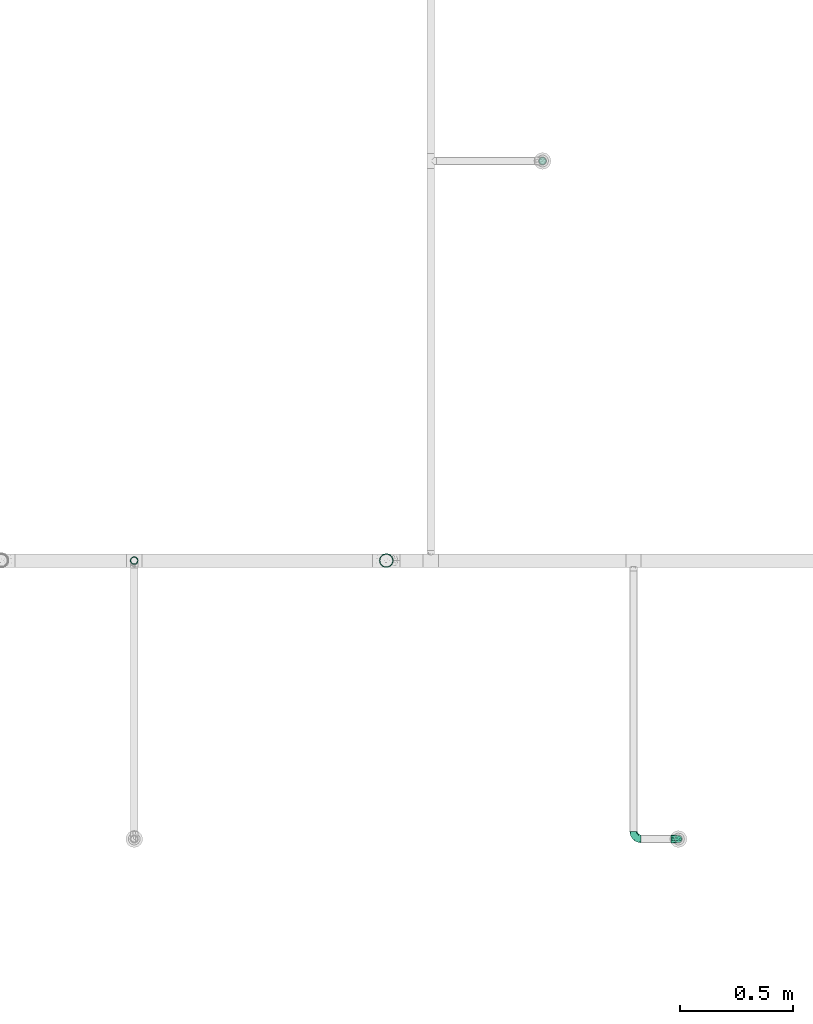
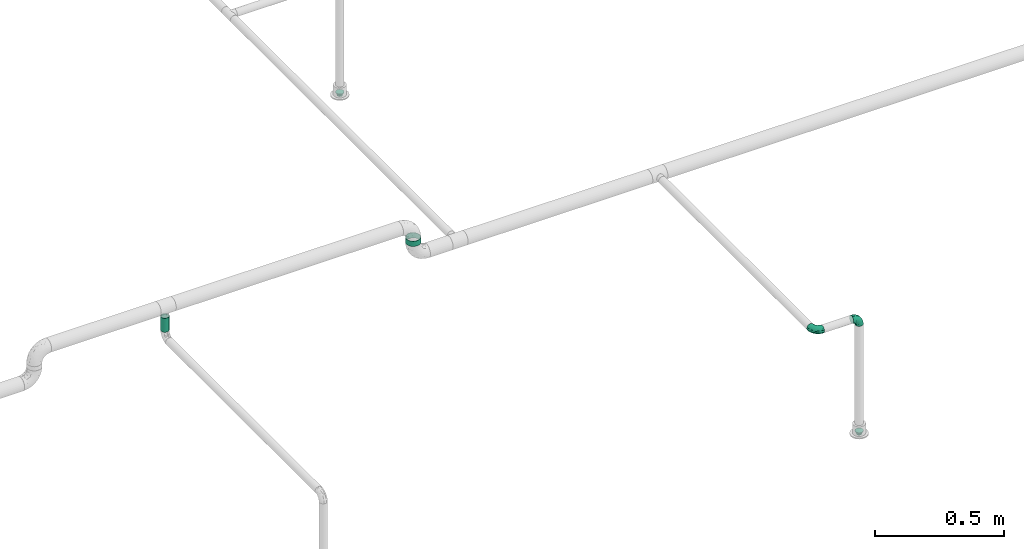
# One storey, part 71 of 95: 4 flow fittings, 2 flow segments.
"""IFC2X3 building model written with IfcOpenShell, lengths in millimetres."""

from ifc_helpers import new_model, entity, si_unit, converted_unit, derived_unit, direction, frame, origin_with_axes, origin_2d_with_axis, place, context, subcontext, project, spatial, hollow_circle, extrude, open_shell, surface_model, source, transform, mapped, type_object, element, save


model = new_model("IFC2X3")

# Units and contexts
model_context = context("Model", 3, precision=0.01, world=frame((0.0, 4.29681676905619e-09, 0.0)), true_north=direction((4.01073788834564e-13, 1.0)))
plan_context = context("Plan", 3, precision=0.01, world=frame((0.0, 4.29681676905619e-09, 0.0)), true_north=direction((4.01073788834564e-13, 1.0)))
body_context = subcontext(model_context, "Body", "Model", "MODEL_VIEW")
ifc_project = project(units=[converted_unit("PLANEANGLEUNIT", "DEGREE", entity("IfcPositiveLengthMeasure", 0.0174532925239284), si_unit("PLANEANGLEUNIT", "RADIAN"), dimensions=[0, 0, 0, 0, 0, 0, 0]), si_unit("AREAUNIT", "SQUARE_METRE"), si_unit("LENGTHUNIT", "METRE", prefix="MILLI"), si_unit("MASSUNIT", "GRAM", prefix="KILO"), si_unit("POWERUNIT", "WATT"), si_unit("PRESSUREUNIT", "PASCAL"), si_unit("FORCEUNIT", "NEWTON", prefix="KILO"), si_unit("ELECTRICVOLTAGEUNIT", "VOLT"), si_unit("ELECTRICCURRENTUNIT", "AMPERE"), si_unit("THERMODYNAMICTEMPERATUREUNIT", "DEGREE_CELSIUS"), si_unit("TIMEUNIT", "SECOND"), si_unit("VOLUMEUNIT", "CUBIC_METRE"), derived_unit("LINEARVELOCITYUNIT", [(si_unit("LENGTHUNIT", "METRE"), 1), (si_unit("TIMEUNIT", "SECOND"), -1)]), derived_unit("VOLUMETRICFLOWRATEUNIT", [(si_unit("VOLUMEUNIT", "CUBIC_METRE"), 1), (si_unit("TIMEUNIT", "SECOND"), -1)]), derived_unit("THERMALTRANSMITTANCEUNIT", [(si_unit("POWERUNIT", "WATT"), 1), (si_unit("THERMODYNAMICTEMPERATUREUNIT", "KELVIN"), -1), (si_unit("AREAUNIT", "SQUARE_METRE"), -1)]), derived_unit("SOUNDPRESSUREUNIT", [(si_unit("PRESSUREUNIT", "PASCAL"), 1)])], contexts=[model_context, plan_context])

# Site, building, storey
site_placement = place(None, frame((0.0, -4.29681676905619e-09, 0.0), z_axis=(0.0, 0.0, 1.0), x_axis=(1.0, 0.0, 0.0)))
site = spatial("IfcSite", under=ifc_project, at=site_placement, CompositionType="ELEMENT")
building_placement = place(site_placement, frame((0.0, 4.29681676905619e-09, 0.0), z_axis=(0.0, 0.0, 1.0), x_axis=(1.0, 0.0, 0.0)))
building = spatial("IfcBuilding", under=site, at=building_placement, Name="mc-building", CompositionType="ELEMENT")
storey_placement = place(building_placement, frame((0.0, 0.0, 210900.0), z_axis=(0.0, 0.0, 1.0), x_axis=(1.0, 0.0, 0.0)))
storey = spatial("IfcBuildingStorey", under=building, at=storey_placement, Name="Nivå F", CompositionType="ELEMENT", Elevation=210900.0)

# Flow fittings
pipe_fitting_type_1 = type_object("IfcPipeFittingType", Name="magi_pipe_fe_reducer_centric_short_NOR", PredefinedType="TRANSITION")
shared_shape_1 = source(origin_with_axes(), body_context, "Body", "SurfaceModel", [
    surface_model("IfcShellBasedSurfaceModel", [(14.4, 5.35, -9.26647), (14.4, 0.0, -10.7), (14.4, 2.76936, -10.33541), (14.4, 10.33541, -2.76936), (14.4, 7.56604, -7.56604), (14.4, -10.33541, -2.76936), (14.4, 9.26647, -5.35), (14.4, 0.0, 10.7), (14.4, -5.35, -9.26647), (14.4, -2.76936, -10.33541), (14.4, -7.56604, -7.56604), (14.4, -9.26647, -5.35), (14.4, 10.7, 0.0), (14.4, 10.33541, 2.76936), (14.4, 9.26647, 5.35), (14.4, 7.56604, 7.56604), (14.4, 2.76936, 10.33541), (14.4, 5.35, 9.26647), (14.4, -10.33541, 2.76936), (14.4, -7.56604, 7.56604), (14.4, -9.26647, 5.35), (14.4, -10.7, 0.0), (14.4, -2.76936, 10.33541), (14.4, -5.35, 9.26647), (12.4, 2.76936, 10.33541), (12.4, -10.33541, -2.76936), (12.4, 0.0, 10.7), (12.4, 5.35, 9.26647), (12.4, 7.56604, 7.56604), (12.4, 9.26647, 5.35), (12.4, 10.33541, 2.76936), (12.4, -10.33541, 2.76936), (12.4, -2.76936, 10.33541), (12.4, -7.56604, 7.56604), (12.4, -5.35, 9.26647), (12.4, -9.26647, 5.35), (12.4, -10.7, 0.0), (12.4, 10.33541, -2.76936), (12.4, 5.35, -9.26647), (12.4, 9.26647, -5.35), (12.4, 7.56604, -7.56604), (12.4, 2.76936, -10.33541), (12.4, -9.26647, -5.35), (12.4, -5.35, -9.26647), (12.4, -7.56604, -7.56604), (12.4, 0.0, -10.7), (12.4, -2.76936, -10.33541), (12.4, 10.7, 0.0), (-2.0, 11.9501, 11.9501), (-2.0, 0.0, 16.9), (-2.0, 4.37404, 16.32415), (-2.0, 8.45, 14.63583), (-2.0, 14.63583, 8.45), (-2.0, 16.32415, 4.37404), (-2.0, -16.32415, 4.37404), (-2.0, -8.45, 14.63583), (-2.0, -14.63583, 8.45), (-2.0, -11.9501, 11.9501), (-2.0, -4.37404, 16.32415), (-2.0, -16.32415, -4.37404), (-2.0, -16.9, 0.0), (-2.0, -8.45, -14.63583), (-2.0, 16.32415, -4.37404), (-2.0, 11.9501, -11.9501), (-2.0, 14.63583, -8.45), (-2.0, 8.45, -14.63583), (-2.0, 4.37404, -16.32415), (-2.0, 0.0, -16.9), (-2.0, -11.9501, -11.9501), (-2.0, -14.63583, -8.45), (-2.0, -4.37404, -16.32415), (-2.0, 16.9, 0.0), (0.0, 4.37404, -16.32415), (0.0, 8.45, -14.63583), (0.0, 11.9501, -11.9501), (0.0, 0.0, -16.9), (0.0, 16.32415, -4.37404), (0.0, 16.32415, 4.37404), (0.0, 14.63583, -8.45), (0.0, -8.45, -14.63583), (0.0, -4.37404, -16.32415), (0.0, -11.9501, -11.9501), (0.0, -16.32415, -4.37404), (0.0, -14.63583, -8.45), (0.0, -16.32415, 4.37404), (0.0, 16.9, 0.0), (0.0, 14.63583, 8.45), (0.0, 11.9501, 11.9501), (0.0, 4.37404, 16.32415), (0.0, 8.45, 14.63583), (0.0, 0.0, 16.9), (0.0, -14.63583, 8.45), (0.0, -16.9, 0.0), (0.0, -8.45, 14.63583), (0.0, -11.9501, 11.9501), (0.0, -4.37404, 16.32415), (12.4, 9.3625, -2.31662), (0.0, 14.42505, -5.97505), (0.0, 15.66253, -2.98753), (12.4, -6.6875, -6.94985), (0.0, -13.18758, -8.96258), (0.0, 2.98753, -15.66253), (12.4, 0.0, -9.26647), (12.4, 6.6875, -6.94985), (0.0, 8.96258, -13.18758), (12.4, -9.3625, -2.31662), (0.0, -15.66253, -2.98753), (0.0, -14.42505, -5.97505), (0.0, 5.97505, -14.42505), (0.0, -2.98753, -15.66253), (0.0, -8.96258, -13.18758), (0.0, 13.18758, -8.96258), (12.4, 8.025, -4.63324), (12.4, -2.675, -9.26647), (12.4, 2.675, -9.26647), (0.0, -5.97505, -14.42505), (12.4, -8.025, -4.63324), (12.4, -9.3625, 2.31662), (0.0, -14.42505, 5.97505), (0.0, -15.66253, 2.98753), (12.4, 6.6875, 6.94985), (0.0, 13.18758, 8.96258), (0.0, -2.98753, 15.66253), (12.4, 0.0, 9.26647), (12.4, -6.6875, 6.94985), (0.0, -8.96258, 13.18758), (12.4, 9.3625, 2.31662), (0.0, 15.66253, 2.98753), (0.0, 14.42505, 5.97505), (0.0, -5.97505, 14.42505), (0.0, 2.98753, 15.66253), (0.0, 8.96258, 13.18758), (0.0, -13.18758, 8.96258), (12.4, -8.025, 4.63324), (12.4, 2.675, 9.26647), (12.4, -2.675, 9.26647), (0.0, 5.97505, 14.42505), (12.4, 8.025, 4.63324)], [open_shell([[[0, 1, 2]], [[3, 0, 4]], [[5, 0, 3]], [[3, 4, 6]], [[7, 5, 3]], [[1, 8, 9]], [[1, 0, 8]], [[10, 5, 11]], [[5, 10, 8]], [[0, 5, 8]], [[3, 12, 13]], [[13, 14, 15]], [[13, 15, 16]], [[7, 3, 16]], [[16, 15, 17]], [[7, 18, 5]], [[18, 19, 20]], [[21, 5, 18]], [[19, 22, 23]], [[22, 19, 18]], [[7, 22, 18]], [[13, 16, 3]], [[24, 25, 26]], [[27, 25, 24]], [[28, 29, 30]], [[28, 25, 27]], [[31, 26, 25]], [[32, 33, 34]], [[33, 32, 31]], [[33, 31, 35]], [[32, 26, 31]], [[31, 25, 36]], [[30, 37, 28]], [[25, 28, 37]], [[38, 37, 39]], [[37, 38, 25]], [[38, 39, 40]], [[41, 25, 38]], [[42, 43, 44]], [[43, 42, 25]], [[43, 45, 46]], [[43, 25, 41]], [[41, 45, 43]], [[37, 30, 47]], [[25, 5, 36]], [[42, 11, 25]], [[8, 44, 43]], [[42, 44, 10]], [[9, 43, 46]], [[25, 11, 5]], [[5, 21, 36]], [[9, 8, 43]], [[10, 44, 8]], [[10, 11, 42]], [[1, 9, 46]], [[46, 45, 1]], [[41, 2, 45]], [[38, 0, 41]], [[6, 40, 39]], [[38, 40, 4]], [[3, 39, 37]], [[38, 4, 0]], [[0, 2, 41]], [[12, 3, 37]], [[6, 39, 3]], [[6, 4, 40]], [[47, 12, 37]], [[45, 2, 1]], [[30, 13, 47]], [[29, 14, 30]], [[17, 28, 27]], [[29, 28, 15]], [[16, 27, 24]], [[30, 14, 13]], [[13, 12, 47]], [[16, 17, 27]], [[15, 28, 17]], [[15, 14, 29]], [[7, 16, 24]], [[24, 26, 7]], [[32, 22, 26]], [[34, 23, 32]], [[20, 33, 35]], [[34, 33, 19]], [[18, 35, 31]], [[34, 19, 23]], [[23, 22, 32]], [[21, 18, 31]], [[20, 35, 18]], [[20, 19, 33]], [[36, 21, 31]], [[26, 22, 7]], [[48, 49, 50]], [[48, 50, 51]], [[48, 52, 53]], [[48, 53, 49]], [[49, 53, 54]], [[55, 56, 57]], [[55, 58, 49]], [[56, 55, 49]], [[49, 54, 56]], [[54, 59, 60]], [[54, 53, 61]], [[53, 62, 63]], [[63, 62, 64]], [[63, 65, 66]], [[61, 53, 63]], [[67, 63, 66]], [[59, 68, 69]], [[68, 59, 61]], [[61, 67, 70]], [[59, 54, 61]], [[63, 67, 61]], [[53, 71, 62]], [[72, 73, 74]], [[75, 72, 74]], [[74, 76, 77]], [[76, 74, 78]], [[74, 77, 79]], [[75, 79, 80]], [[75, 74, 79]], [[81, 82, 83]], [[82, 81, 79]], [[79, 84, 82]], [[77, 76, 85]], [[77, 86, 87]], [[77, 87, 88]], [[88, 84, 79]], [[88, 87, 89]], [[84, 88, 90]], [[90, 91, 84]], [[92, 82, 84]], [[91, 93, 94]], [[91, 90, 93]], [[93, 90, 95]], [[79, 77, 88]], [[59, 82, 60]], [[69, 83, 59]], [[79, 68, 61]], [[69, 68, 81]], [[80, 61, 70]], [[59, 83, 82]], [[82, 92, 60]], [[80, 79, 61]], [[81, 68, 79]], [[81, 83, 69]], [[75, 80, 70]], [[70, 67, 75]], [[66, 72, 67]], [[65, 73, 66]], [[78, 63, 64]], [[65, 63, 74]], [[76, 64, 62]], [[65, 74, 73]], [[73, 72, 66]], [[85, 76, 62]], [[78, 64, 76]], [[78, 74, 63]], [[71, 85, 62]], [[67, 72, 75]], [[53, 77, 71]], [[52, 86, 53]], [[89, 48, 51]], [[52, 48, 87]], [[88, 51, 50]], [[53, 86, 77]], [[77, 85, 71]], [[88, 89, 51]], [[87, 48, 89]], [[87, 86, 52]], [[90, 88, 50]], [[50, 49, 90]], [[58, 95, 49]], [[55, 93, 58]], [[91, 57, 56]], [[55, 57, 94]], [[84, 56, 54]], [[55, 94, 93]], [[93, 95, 58]], [[92, 84, 54]], [[91, 56, 84]], [[91, 94, 57]], [[60, 92, 54]], [[49, 95, 90]], [[27, 34, 47]], [[47, 34, 43]], [[43, 38, 47]], [[43, 34, 36]], [[90, 87, 94]], [[92, 94, 87]], [[87, 74, 92]], [[75, 92, 74]], [[81, 92, 75]], [[74, 87, 85]], [[96, 97, 98]], [[81, 99, 100]], [[101, 102, 75]], [[98, 85, 47]], [[74, 103, 104]], [[104, 103, 38]], [[105, 106, 107]], [[38, 108, 104]], [[102, 109, 75]], [[110, 99, 81]], [[47, 96, 98]], [[103, 111, 112]], [[109, 102, 113]], [[36, 92, 106]], [[102, 101, 114]], [[110, 115, 43]], [[96, 112, 97]], [[107, 116, 105]], [[36, 106, 105]], [[113, 115, 109]], [[43, 115, 113]], [[116, 107, 100]], [[108, 38, 114]], [[111, 103, 74]], [[111, 97, 112]], [[99, 110, 43]], [[116, 100, 99]], [[101, 108, 114]], [[117, 118, 119]], [[87, 120, 121]], [[122, 123, 90]], [[119, 92, 36]], [[94, 124, 125]], [[125, 124, 34]], [[126, 127, 128]], [[34, 129, 125]], [[123, 130, 90]], [[131, 120, 87]], [[36, 117, 119]], [[124, 132, 133]], [[130, 123, 134]], [[47, 85, 127]], [[123, 122, 135]], [[131, 136, 27]], [[117, 133, 118]], [[128, 137, 126]], [[47, 127, 126]], [[134, 136, 130]], [[27, 136, 134]], [[137, 128, 121]], [[129, 34, 135]], [[132, 124, 94]], [[132, 118, 133]], [[120, 131, 27]], [[137, 121, 120]], [[122, 129, 135]]])]),
])
for number, where, z_axis, x_axis, name in (
    (1, (531098.68266, 449607.85, 3769.25200000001), (-0.000893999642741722, -0.99999960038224, 0.0), (0.0, 0.0, -1.0), "magi_pipe_fe_reducer_centric_short_NOR"),
    (2, (530498.24193, 452603.51992, 3769.25200000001), (-0.000893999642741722, -0.99999960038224, 0.0), (0.0, 0.0, -1.0), "magi_pipe_fe_reducer_centric_short_NOR"),
):
    element("IfcFlowFitting", number, at=place(storey_placement, frame(where, z_axis=z_axis, x_axis=x_axis)), inside=storey, type_object=pipe_fitting_type_1, Name=name, context=body_context, shape_type="MappedRepresentation", body=[
        mapped(shared_shape_1, transform((0.0, 0.0, 0.0), scale=1.0)),
    ])
pipe_fitting_type_2 = type_object("IfcPipeFittingType", Name="magi_pipe_fe_elbow_short_001", PredefinedType="BEND")
shared_shape_2 = source(origin_with_axes(), body_context, "Body", "SurfaceModel", [
    surface_model("IfcShellBasedSurfaceModel", [(-33.8, 8.45, -14.63583), (-33.8, 4.37404, -16.32415), (-33.8, 11.9501, -11.9501), (-33.8, -11.9501, -11.9501), (-33.8, -14.63583, -8.45), (-33.8, -8.45, -14.63583), (-33.8, 0.0, -16.9), (-33.8, -4.37404, -16.32415), (-33.8, -4.37404, 16.32415), (-33.8, 0.0, 16.9), (-33.8, -8.45, 14.63583), (-33.8, 16.32415, -4.37404), (-33.8, 14.63583, -8.45), (-33.8, -16.32415, -4.37404), (-33.8, -16.9, 0.0), (-33.8, -16.32415, 4.37404), (-33.8, 11.9501, 11.9501), (-33.8, 14.63583, 8.45), (-33.8, 16.32415, 4.37404), (-33.8, 4.37404, 16.32415), (-33.8, 8.45, 14.63583), (-33.8, -14.63583, 8.45), (-33.8, -11.9501, 11.9501), (-33.8, 16.9, 0.0), (-11.9501, 33.8, -11.9501), (0.0, 33.8, -16.9), (-4.37404, 33.8, -16.32415), (-8.45, 33.8, -14.63583), (-14.63583, 33.8, -8.45), (-16.32415, 33.8, -4.37404), (14.63583, 33.8, -8.45), (8.45, 33.8, 14.63583), (16.32415, 33.8, -4.37404), (8.45, 33.8, -14.63583), (11.9501, 33.8, -11.9501), (4.37404, 33.8, -16.32415), (16.32415, 33.8, 4.37404), (16.9, 33.8, 0.0), (-11.9501, 33.8, 11.9501), (-16.32415, 33.8, 4.37404), (-14.63583, 33.8, 8.45), (-8.45, 33.8, 14.63583), (-4.37404, 33.8, 16.32415), (11.9501, 33.8, 11.9501), (14.63583, 33.8, 8.45), (0.0, 33.8, 16.9), (4.37404, 33.8, 16.32415), (-16.9, 33.8, 0.0), (-24.79389, -13.12945, 9.48721), (-22.19287, -9.75018, 12.59315), (-24.09897, -14.97035, 0.0), (-14.93934, -10.76256, 8.5297), (-22.46095, -14.75051, 5.27077), (14.75051, 22.46094, 5.27077), (11.9251, 13.23888, 4.33236), (13.04069, 14.39795, 0.0), (7.71387, 13.68847, 11.55891), (9.75018, 22.19287, 12.59315), (4.10169, 13.0571, 14.04018), (-24.84007, -6.39063, 15.2048), (-25.81779, -2.23879, 16.61097), (-23.66549, 2.59054, 16.87119), (-26.50418, 14.06512, 11.08152), (-24.21253, 17.66365, 7.72657), (-29.58514, 15.86957, 7.00283), (-6.17382, -7.5455, 0.0), (-13.23888, -11.9251, 4.33236), (-14.39795, -13.04069, 0.0), (-17.81434, 18.87373, 11.97104), (-6.30846, 29.15138, 15.82987), (-2.31622, 25.28002, 16.85849), (-29.23923, 10.23435, 13.77053), (-1.45439, -2.85688, 7.61475), (-0.28326, 0.34872, 10.09509), (-5.74484, -4.04709, 10.4122), (-4.41137, 11.31918, 16.59407), (-8.39727, 3.10034, 15.7812), (-1.72649, 9.1306, 15.53089), (-17.39909, 24.75344, 7.64977), (-26.19233, 20.0512, 0.0), (-28.14518, 17.29657, 4.25857), (-26.05147, 6.6281, 15.96447), (-5.87354, 16.61944, 16.86968), (-12.51807, 12.51807, 16.48937), (-10.06312, 7.38516, 16.81295), (-3.01882, 3.01882, 13.81718), (-13.0571, -4.10169, 14.04018), (-16.82553, -0.15166, 16.38038), (10.76256, 14.93934, 8.5297), (13.12945, 24.79389, 9.48721), (6.39063, 24.84007, 15.2048), (2.23879, 25.81779, 16.61097), (-13.68847, -7.71387, 11.55891), (14.97035, 24.09897, 0.0), (-7.30894, 22.89991, 16.09489), (-10.67958, 26.17414, 14.008), (-12.78295, 18.26924, 15.06066), (-13.88562, 22.45231, 12.93244), (-18.04944, 15.16501, 14.04434), (-23.11658, 20.08178, 4.02986), (-21.84989, 21.84989, 0.0), (-18.55817, 25.48277, 3.93065), (-13.95142, 26.94732, 11.03289), (-18.57098, 7.23906, 16.59756), (-16.58335, 4.14122, 16.89279), (-17.96666, 11.46709, 15.63151), (-9.84453, 17.54304, 16.18938), (0.15166, 16.82553, 16.38038), (-23.27207, 11.47201, 14.23154), (3.84842, 5.86994, 10.70473), (-8.0212, -7.54413, 7.93275), (1.00345, -2.19508, 4.57414), (5.13203, 3.01004, 5.90201), (5.24161, 1.7543, 2.53265), (8.70457, 7.04947, 3.99182), (-20.0512, 26.19233, 0.0), (8.4852, 8.76699, 7.09296), (-4.55488, -6.72064, 4.90681), (2.05031, -2.05031, 0.0), (7.5455, 6.17382, 0.0), (-26.75399, 2.1369, -16.845), (-14.61995, 24.73803, -11.27736), (-28.45274, -13.45335, -9.81895), (-26.00469, 6.63555, -15.96645), (-23.06726, 20.04573, -4.26202), (-13.80647, -4.26506, -14.17873), (-14.67501, -0.21081, -16.07388), (-6.7902, -0.2828, -13.8478), (-24.53586, 11.08096, -14.13417), (-26.72048, 14.00837, -11.05776), (10.0967, 24.44989, -12.75976), (5.83237, 21.40218, -15.03047), (6.66249, 28.54238, -15.38093), (-20.38182, 15.48705, -12.74596), (12.53268, 21.23441, -9.15363), (12.54494, 15.67504, -5.54878), (9.7522, 12.89279, -8.66343), (-15.65186, 19.64213, -13.01327), (-12.03528, 20.66498, -14.67665), (-15.61907, 15.61906, -14.83879), (-25.56551, -15.26206, 0.0), (-24.65452, -15.12934, -5.50955), (13.45335, 28.45274, -9.81895), (15.12934, 24.65452, -5.50955), (-7.35442, -8.31014, -5.65563), (-15.67504, -12.54494, -5.54878), (-24.44989, -10.0967, -12.75976), (0.16522, 0.41303, -9.71728), (-5.70658, -5.33066, -8.89288), (-5.13869, -2.37198, -11.53565), (-21.23441, -12.53268, -9.15363), (0.71146, 7.93863, -14.09382), (0.21081, 14.67501, -16.07388), (3.49291, 14.42772, -14.76381), (-24.89911, -2.13088, -16.591), (-28.54238, -6.66249, -15.38093), (-18.44386, -7.71663, -13.26957), (2.13088, 24.89911, -16.591), (-28.64342, 17.44413, -2.89318), (1.70017, -1.28722, -5.09504), (-16.57067, 26.81947, -7.36596), (-17.69055, 27.4263, -3.76405), (-12.89279, -9.7522, -8.66343), (-5.96611, 5.96611, -15.95814), (-20.53709, 20.09345, -8.28985), (-2.1369, 26.75399, -16.845), (-6.89872, 24.58781, -16.02578), (-10.60739, 26.53157, -13.98044), (-21.40218, -5.83237, -15.03047), (2.93192, 5.89627, -11.55917), (6.89393, 12.61842, -11.82233), (5.58056, 5.95325, -8.79455), (-3.99512, 18.61798, -16.89635), (8.31014, 7.35442, -5.65563), (-9.1383, 9.86148, -16.89041), (-9.99983, 16.02119, -16.39699), (-16.68576, 9.78031, -16.34199), (-27.01915, 16.61158, -7.12979), (15.26206, 25.56551, 0.0), (-18.61798, 3.99512, -16.89635), (-19.37495, 27.82495, 0.0), (-12.61842, -6.89393, -11.82233), (-18.84705, 19.14018, -10.96545)], [open_shell([[[0, 1, 2]], [[3, 4, 5]], [[6, 7, 5]], [[8, 9, 10]], [[1, 6, 2]], [[11, 12, 2]], [[4, 2, 6]], [[2, 13, 10]], [[5, 4, 6]], [[2, 4, 13]], [[14, 15, 13]], [[11, 2, 16]], [[11, 17, 18]], [[11, 16, 17]], [[19, 20, 16]], [[16, 2, 10]], [[19, 16, 10]], [[21, 22, 15]], [[22, 13, 15]], [[22, 10, 13]], [[10, 9, 19]], [[11, 18, 23]], [[24, 25, 26]], [[24, 26, 27]], [[24, 28, 29]], [[25, 24, 30]], [[31, 32, 24]], [[33, 30, 34]], [[33, 35, 25]], [[25, 30, 33]], [[32, 30, 24]], [[32, 36, 37]], [[38, 24, 29]], [[39, 40, 29]], [[40, 38, 29]], [[38, 41, 42]], [[38, 31, 24]], [[31, 38, 42]], [[36, 43, 44]], [[36, 32, 43]], [[31, 45, 46]], [[32, 31, 43]], [[42, 45, 31]], [[39, 29, 47]], [[22, 48, 49]], [[15, 14, 50]], [[51, 48, 52]], [[53, 54, 55]], [[48, 22, 21]], [[15, 52, 21]], [[56, 57, 58]], [[49, 10, 22]], [[49, 59, 10]], [[9, 60, 61]], [[62, 63, 64]], [[65, 66, 67]], [[57, 43, 31]], [[62, 68, 63]], [[42, 69, 70]], [[20, 71, 16]], [[8, 60, 9]], [[72, 73, 74]], [[75, 76, 77]], [[16, 62, 17]], [[40, 39, 78]], [[79, 23, 80]], [[64, 18, 17]], [[9, 61, 19]], [[19, 81, 20]], [[82, 83, 84]], [[74, 85, 86]], [[59, 86, 87]], [[88, 89, 57]], [[90, 31, 46]], [[44, 53, 36]], [[46, 45, 91]], [[54, 53, 88]], [[44, 89, 53]], [[92, 86, 49]], [[89, 44, 43]], [[10, 59, 8]], [[53, 55, 93]], [[93, 36, 53]], [[66, 52, 67]], [[94, 82, 70]], [[95, 96, 94]], [[97, 98, 96]], [[79, 99, 100]], [[41, 38, 95]], [[101, 100, 99]], [[68, 78, 63]], [[42, 41, 69]], [[23, 18, 80]], [[95, 94, 69]], [[78, 101, 99]], [[38, 102, 95]], [[70, 45, 42]], [[97, 95, 102]], [[15, 50, 52]], [[90, 57, 31]], [[57, 90, 58]], [[81, 19, 61]], [[103, 104, 84]], [[105, 81, 103]], [[38, 40, 102]], [[106, 96, 83]], [[94, 106, 82]], [[91, 70, 107]], [[71, 62, 16]], [[62, 108, 98]], [[86, 59, 49]], [[67, 52, 50]], [[60, 59, 87]], [[92, 49, 51]], [[86, 85, 76]], [[91, 90, 46]], [[37, 36, 93]], [[107, 77, 58]], [[107, 58, 90]], [[58, 85, 109]], [[110, 74, 92]], [[72, 74, 110]], [[66, 51, 52]], [[72, 111, 112]], [[113, 114, 112]], [[56, 88, 57]], [[52, 48, 21]], [[49, 48, 51]], [[57, 89, 43]], [[53, 89, 88]], [[103, 81, 61]], [[71, 81, 108]], [[18, 64, 80]], [[63, 78, 99]], [[47, 115, 101]], [[101, 115, 100]], [[40, 78, 102]], [[68, 102, 78]], [[97, 96, 95]], [[105, 98, 108]], [[103, 84, 83]], [[107, 70, 82]], [[76, 84, 87]], [[82, 84, 75]], [[70, 91, 45]], [[90, 91, 107]], [[59, 60, 8]], [[61, 60, 87]], [[73, 85, 74]], [[109, 112, 116]], [[103, 61, 104]], [[105, 103, 83]], [[96, 105, 83]], [[81, 105, 108]], [[96, 98, 105]], [[62, 98, 68]], [[61, 87, 104]], [[87, 84, 104]], [[86, 76, 87]], [[77, 76, 85]], [[58, 77, 85]], [[75, 77, 107]], [[82, 75, 107]], [[76, 75, 84]], [[81, 71, 20]], [[62, 71, 108]], [[95, 69, 41]], [[70, 69, 94]], [[62, 64, 17]], [[80, 63, 99]], [[63, 80, 64]], [[80, 99, 79]], [[66, 65, 117]], [[110, 66, 117]], [[112, 114, 116]], [[118, 117, 65]], [[110, 92, 51]], [[112, 111, 113]], [[119, 55, 54]], [[74, 86, 92]], [[58, 109, 56]], [[116, 56, 109]], [[66, 110, 51]], [[72, 110, 117]], [[111, 72, 117]], [[73, 112, 109]], [[117, 118, 111]], [[113, 111, 118]], [[118, 119, 113]], [[114, 119, 54]], [[119, 114, 113]], [[116, 54, 88]], [[54, 116, 114]], [[116, 88, 56]], [[112, 73, 72]], [[85, 73, 109]], [[78, 39, 101]], [[47, 101, 39]], [[102, 68, 97]], [[97, 68, 98]], [[82, 106, 83]], [[94, 96, 106]], [[1, 120, 6]], [[28, 24, 121]], [[3, 122, 4]], [[0, 123, 1]], [[100, 124, 79]], [[125, 126, 127]], [[128, 2, 129]], [[130, 131, 132]], [[128, 129, 133]], [[134, 135, 136]], [[137, 138, 139]], [[128, 0, 2]], [[67, 140, 141]], [[134, 142, 143]], [[141, 13, 4]], [[144, 65, 145]], [[146, 3, 5]], [[147, 148, 149]], [[145, 141, 150]], [[151, 152, 153]], [[154, 7, 6]], [[5, 155, 146]], [[150, 146, 156]], [[155, 5, 7]], [[143, 135, 134]], [[35, 157, 25]], [[23, 79, 158]], [[148, 159, 144]], [[160, 161, 29]], [[145, 162, 144]], [[163, 152, 151]], [[29, 28, 160]], [[121, 164, 160]], [[33, 34, 130]], [[25, 165, 26]], [[26, 165, 166]], [[142, 34, 30]], [[24, 27, 167]], [[124, 161, 164]], [[157, 35, 132]], [[155, 154, 168]], [[123, 0, 128]], [[169, 170, 171]], [[172, 157, 152]], [[26, 166, 27]], [[132, 35, 33]], [[142, 130, 34]], [[168, 154, 126]], [[136, 135, 173]], [[133, 137, 139]], [[2, 12, 129]], [[170, 131, 130]], [[30, 32, 143]], [[172, 174, 175]], [[176, 123, 128]], [[158, 177, 11]], [[135, 55, 119]], [[167, 27, 166]], [[175, 166, 172]], [[137, 167, 138]], [[122, 141, 4]], [[140, 14, 13]], [[32, 37, 178]], [[170, 130, 134]], [[152, 157, 131]], [[165, 157, 172]], [[153, 170, 151]], [[152, 163, 174]], [[168, 125, 156]], [[122, 146, 150]], [[120, 154, 6]], [[179, 174, 126]], [[179, 126, 154]], [[126, 163, 127]], [[162, 145, 150]], [[140, 13, 141]], [[32, 178, 143]], [[55, 143, 178]], [[177, 129, 12]], [[128, 133, 139]], [[176, 128, 139]], [[120, 123, 179]], [[121, 160, 28]], [[161, 100, 180]], [[166, 175, 138]], [[121, 24, 167]], [[161, 47, 29]], [[79, 124, 158]], [[124, 164, 177]], [[161, 124, 100]], [[136, 171, 170]], [[127, 163, 151]], [[147, 171, 159]], [[148, 144, 162]], [[127, 151, 169]], [[127, 181, 125]], [[129, 177, 164]], [[12, 11, 177]], [[159, 65, 144]], [[67, 141, 145]], [[143, 55, 135]], [[135, 119, 173]], [[123, 120, 1]], [[154, 120, 179]], [[157, 165, 25]], [[166, 165, 172]], [[172, 152, 174]], [[176, 139, 175]], [[126, 174, 163]], [[176, 174, 179]], [[174, 176, 175]], [[123, 176, 179]], [[150, 181, 162]], [[127, 149, 181]], [[181, 148, 162]], [[159, 148, 147]], [[171, 136, 173]], [[170, 134, 136]], [[159, 171, 173]], [[171, 147, 169]], [[169, 147, 149]], [[151, 170, 169]], [[164, 182, 129]], [[182, 121, 137]], [[181, 149, 148]], [[169, 149, 127]], [[182, 137, 133]], [[167, 137, 121]], [[166, 138, 167]], [[175, 139, 138]], [[129, 182, 133]], [[121, 182, 164]], [[161, 160, 164]], [[47, 161, 180]], [[177, 158, 124]], [[23, 158, 11]], [[130, 132, 33]], [[157, 132, 131]], [[143, 142, 30]], [[130, 142, 134]], [[154, 155, 7]], [[146, 155, 168]], [[146, 122, 3]], [[141, 122, 150]], [[152, 131, 153]], [[159, 119, 118]], [[67, 145, 65]], [[170, 153, 131]], [[119, 159, 173]], [[159, 118, 65]], [[156, 125, 181]], [[126, 125, 168]], [[150, 156, 181]], [[168, 156, 146]]])]),
])
for number, where, z_axis, x_axis, name in (
    (3, (530900.0, 449607.85, 4310.0), (0.0, 0.0, 1.0), (0.0, -1.0, 0.0), "magi_pipe_fe_elbow_short_001"),
    (4, (531098.68266, 449607.85, 4310.0), (0.0, 1.0, 0.0), (1.0, 0.0, 0.0), "magi_pipe_fe_elbow_short_001"),
):
    element("IfcFlowFitting", number, at=place(storey_placement, frame(where, z_axis=z_axis, x_axis=x_axis)), inside=storey, type_object=pipe_fitting_type_2, Name=name, context=body_context, shape_type="MappedRepresentation", body=[
        mapped(shared_shape_2, transform((0.0, 0.0, 0.0), scale=1.0)),
    ])

# Flow segments
pipe_segment_type = type_object("IfcPipeSegmentType", Name="Stålrør normaltykke", PredefinedType="RIGIDSEGMENT")
shared_shape_3 = source(origin_with_axes(), body_context, "Body", "SweptSolid", [
    extrude(hollow_circle(Radius=30.1, WallThickness=2.0, at=origin_2d_with_axis()), frame((0.0, 0.0, 0.0), z_axis=(1.0, 0.0, 0.0), x_axis=(0.0, 1.0, 0.0)), (0.0, 0.0, 1.0), 24.7),
])
flow_segment_1_placement = place(storey_placement, frame((529808.06458, 450838.0, 4395.07504), z_axis=(0.0, 1.0, 0.0), x_axis=(0.0, 0.0, -1.0)))
element("IfcFlowSegment", 5, at=flow_segment_1_placement, inside=storey, type_object=pipe_segment_type, Name="Stålrør normaltykke", context=body_context, shape_type="MappedRepresentation", body=[
    mapped(shared_shape_3, transform((0.0, 0.0, 0.0), scale=1.0)),
])
shared_shape_4 = source(origin_with_axes(), body_context, "Body", "SweptSolid", [
    extrude(hollow_circle(Radius=16.9, WallThickness=2.0, at=origin_2d_with_axis()), frame((0.0, 0.0, 0.0), z_axis=(1.0, 0.0, 0.0), x_axis=(0.0, 1.0, 0.0)), (0.0, 0.0, 1.0), 66.4),
])
flow_segment_2_placement = place(storey_placement, frame((528694.26458, 450838.0, 4410.17504), z_axis=(0.0, -1.0, 0.0), x_axis=(0.0, 0.0, -1.0)))
element("IfcFlowSegment", 6, at=flow_segment_2_placement, inside=storey, type_object=pipe_segment_type, Name="Stålrør normaltykke", context=body_context, shape_type="MappedRepresentation", body=[
    mapped(shared_shape_4, transform((0.0, 0.0, 0.0), scale=1.0)),
])

save(model, "model.ifc")
